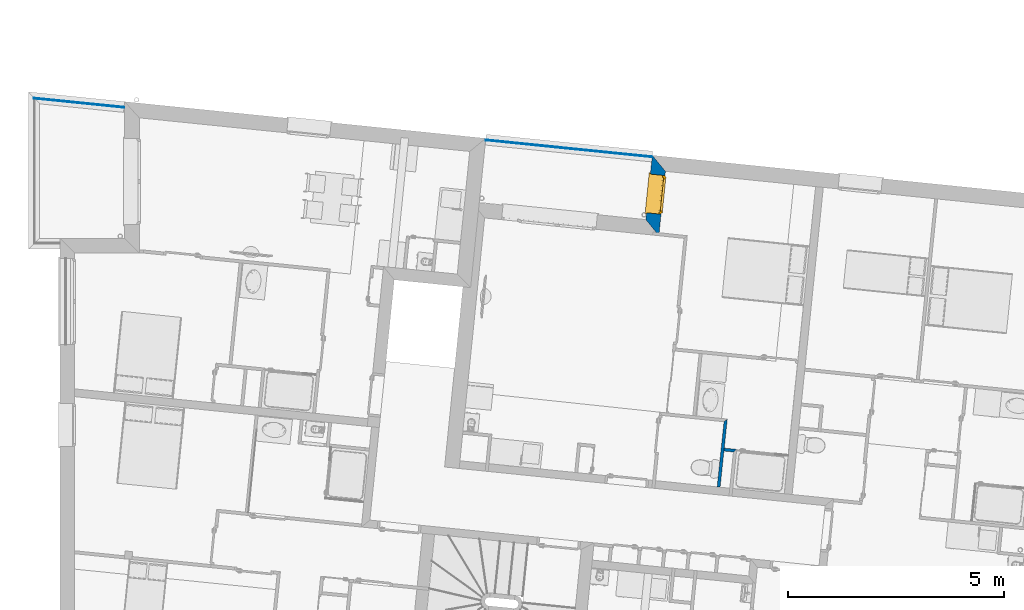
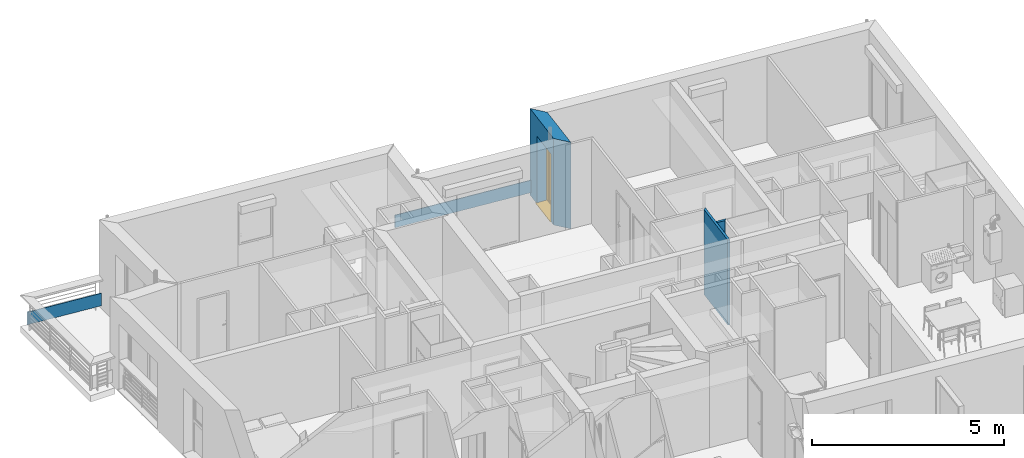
# One storey, part 67 of 164: 5 walls, 1 window, 1 opening.
"""IFC2X3 building model written with IfcOpenShell, lengths in millimetres."""

from ifc_helpers import new_model, entity, si_unit, converted_unit, derived_unit, money_unit, direction, frame, origin_with_axes, place, context, subcontext, project, spatial, polyline, outline, extrude, open_shell, faceted_brep, surface_model, source, transform, mapped, material, layer, layer_set, layer_usage, type_object, element, fill, save


model = new_model("IFC2X3")

# Units and contexts
model_context = context("Model", 3, precision=0.01, world=origin_with_axes(), true_north=direction((0.0, 1.0)))
body_context = subcontext(model_context, "Body", "Model", "MODEL_VIEW")
ifc_project = project(units=[si_unit("LENGTHUNIT", "METRE", prefix="MILLI"), si_unit("AREAUNIT", "SQUARE_METRE"), si_unit("VOLUMEUNIT", "CUBIC_METRE"), converted_unit("PLANEANGLEUNIT", "DEGREE", entity("IfcPlaneAngleMeasure", 0.0174532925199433), si_unit("PLANEANGLEUNIT", "RADIAN"), dimensions=[0, 0, 0, 0, 0, 0, 0]), money_unit("USD"), converted_unit("TIMEUNIT", "Year", entity("IfcTimeMeasure", 31557600.0), si_unit("TIMEUNIT", "SECOND"), dimensions=[0, 0, 1, 0, 0, 0, 0]), si_unit("MASSUNIT", "GRAM", prefix="KILO"), si_unit("THERMODYNAMICTEMPERATUREUNIT", "DEGREE_CELSIUS"), si_unit("LUMINOUSINTENSITYUNIT", "LUMEN"), si_unit("ENERGYUNIT", "JOULE", prefix="MEGA"), derived_unit("THERMALCONDUCTANCEUNIT", [(si_unit("POWERUNIT", "WATT"), 1), (si_unit("LENGTHUNIT", "METRE"), -1), (si_unit("THERMODYNAMICTEMPERATUREUNIT", "KELVIN"), -1)]), derived_unit("SPECIFICHEATCAPACITYUNIT", [(si_unit("ENERGYUNIT", "JOULE"), 1), (si_unit("MASSUNIT", "GRAM", prefix="KILO"), -1), (si_unit("THERMODYNAMICTEMPERATUREUNIT", "KELVIN"), -1)]), derived_unit("MASSDENSITYUNIT", [(si_unit("MASSUNIT", "GRAM", prefix="KILO"), 1), (si_unit("VOLUMEUNIT", "CUBIC_METRE"), -1)])], contexts=[model_context])

# Site, building, storey
site_placement = place(None, origin_with_axes())
site = spatial("IfcSite", under=ifc_project, at=site_placement, Name="Site", CompositionType="ELEMENT")
building_placement = place(site_placement, origin_with_axes())
building = spatial("IfcBuilding", under=site, at=building_placement, Name="Bâtiment", CompositionType="ELEMENT")
storey_placement = place(building_placement, frame((0.0, 0.0, 5750.0), z_axis=(0.0, 0.0, 1.0), x_axis=(1.0, 0.0, 0.0)))
storey = spatial("IfcBuildingStorey", under=building, at=storey_placement, Name="Etage1", CompositionType="ELEMENT", Elevation=5750.0)

# Walls
ifc_material_1 = material(Name="MANQUANT")
ifc_layer_1 = layer(ifc_material_1, 20.0, ventilated="UNKNOWN")
ifc_layer_set_1 = layer_set([ifc_layer_1], Name="MANQUANT 20")
ifc_layer_usage_1 = layer_usage(ifc_layer_set_1, "AXIS2", "NEGATIVE", 20.0)
wall_type_1 = type_object("IfcWallType", Name="MANQUANT 20", PredefinedType="NOTDEFINED")
wall_1_placement = place(storey_placement, frame((2218131.208259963, -604120.8081355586, 99.99999999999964), z_axis=(0.0, 0.0, 1.0), x_axis=(-0.9949030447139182, 0.1008361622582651, 0.0)))
element("IfcWallStandardCase", 1, at=wall_1_placement, inside=storey, type_object=wall_type_1, material=ifc_layer_usage_1, Name="Mur-164", context=body_context, shape_type="SweptSolid", body=[
    extrude(outline(polyline([(0.0, 0.0), (2110.418738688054, 0.0), (2110.418738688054, 20.00000000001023), (0.0, 20.00000000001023), (0.0, 0.0)])), origin_with_axes(), (0.0, 0.0, 1.0), 400.0),
])
ifc_layer_usage_2 = layer_usage(ifc_layer_set_1, "AXIS2", "NEGATIVE", 20.0)
wall_2_placement = place(storey_placement, frame((2230372.546297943, -605269.1152525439, 99.99999999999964), z_axis=(0.0, 0.0, 1.0), x_axis=(-0.994903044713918, 0.1008361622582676, 0.0)))
element("IfcWallStandardCase", 2, at=wall_2_placement, inside=storey, type_object=wall_type_1, material=ifc_layer_usage_2, Name="Mur-190", context=body_context, shape_type="SweptSolid", body=[
    extrude(outline(polyline([(0.008052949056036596, 0.0), (3880.501257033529, 0.0), (3880.501257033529, 20.00000000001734), (0.01342158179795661, 20.00000000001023), (0.008052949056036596, 0.0)])), origin_with_axes(), (0.0, 0.0, 1.0), 400.0),
])

# Wall, opening, window
ifc_material_2 = material(Name="Parpaing 312445824")
ifc_layer_2 = layer(ifc_material_2, 180.0, ventilated="UNKNOWN")
ifc_material_3 = material(Name="Isolant styromousse 301821074")
ifc_layer_3 = layer(ifc_material_3, 160.0, ventilated="UNKNOWN")
ifc_layer_set_2 = layer_set([ifc_layer_2, ifc_layer_3], Name="isol int 18+16 0018356637")
ifc_layer_usage_3 = layer_usage(ifc_layer_set_2, "AXIS2", "POSITIVE", 0.0)
wall_type_2 = type_object("IfcWallType", Name="isol int 18+16 0018356637 340", PredefinedType="NOTDEFINED")
wall_3_placement = place(storey_placement, frame((2230375.549323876, -605239.4852255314, 0.0), z_axis=(0.0, 0.0, 1.0), x_axis=(-0.1011032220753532, -0.9948759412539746, 0.0)))
wall_3 = element("IfcWallStandardCase", 3, at=wall_3_placement, inside=storey, type_object=wall_type_2, material=ifc_layer_usage_3, Name="Mur-142", context=body_context, shape_type="SweptSolid", body=[
    extrude(outline(polyline([(0.0, 0.0), (1499.999999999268, 1.13686837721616e-10), (1839.999999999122, 340.0000000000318), (339.9999999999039, 339.9999999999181), (0.0, 0.0)])), origin_with_axes(), (0.0, 0.0, 1.0), 2750.0),
])
opening_placement = place(wall_3_placement, frame((889.7579921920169, 0.0, 0.0), z_axis=(0.0, 0.0, 1.0), x_axis=(1.0, 0.0, 0.0)))
opening = element("IfcOpeningElement", 4, at=opening_placement, cuts=wall_3, Name="Fen-207", context=body_context, shape_type="Brep", body=[
    faceted_brep([(-450.0000000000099, 289.9999999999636, 2150.0), (-450.0000000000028, 491.8777448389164, 2150.0), (-449.9999999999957, 491.8777448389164, 0.0), (-450.0000000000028, 289.9999999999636, 0.0), (-450.0000000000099, 280.0000000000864, 2150.0), (-450.0000000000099, 280.0000000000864, 2400.0), (-449.9999999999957, 529.9999999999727, 2400.0), (-449.9999999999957, 529.9999999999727, 2150.0), (450.0000000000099, 491.8777448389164, 2150.0), (450.0000000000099, 491.8777448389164, 0.0), (450.0000000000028, 289.9999999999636, 0.0), (450.0000000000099, -151.8777448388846, 0.0), (-449.9999999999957, -151.8777448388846, 0.0), (-449.9999999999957, -151.8777448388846, 2150.0), (449.9999999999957, 280.0000000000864, 2150.0), (449.9999999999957, 280.0000000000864, 2400.0), (450.0000000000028, 529.9999999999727, 2400.0), (450.0000000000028, 529.9999999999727, 2150.0), (450.0000000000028, 289.9999999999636, 2150.0), (450.0000000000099, -151.8777448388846, 2150.0)], [[[0, 1, 2, 3]], [[1, 0, 4, 5, 6, 7]], [[1, 8, 9, 2]], [[10, 11, 12, 3, 2, 9]], [[4, 0, 3, 12, 13]], [[4, 14, 15, 5]], [[6, 5, 15, 16]], [[7, 6, 16, 17]], [[8, 1, 7, 17]], [[8, 18, 10, 9]], [[18, 14, 19, 11, 10]], [[13, 12, 11, 19]], [[14, 4, 13, 19]], [[18, 8, 17, 16, 15, 14]]]),
])
window_style = type_object("IfcWindowStyle", Name="Fenêtre 27", ConstructionType="NOTDEFINED", OperationType="SINGLE_PANEL", ParameterTakesPrecedence=False, Sizeable=False)
shared_shape = source(origin_with_axes(), body_context, "Body", "SurfaceModel", [
    surface_model("IfcShellBasedSurfaceModel", [(-450.0, -51.00000000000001, 40.00000000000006), (450.0, -51.00000000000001, 40.0), (450.0, -51.00000000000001, 50.0), (-450.0, -51.00000000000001, 50.00000000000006), (-480.0, -369.9999999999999, 28.96551724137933), (480.0, -369.9999999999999, 28.96551724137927), (480.0, -339.9999999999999, 30.00324289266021), (450.0, -339.9999999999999, 30.00324289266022), (-450.0, -339.9999999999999, 30.00324289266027), (-480.0, -339.9999999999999, 30.00324289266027), (-480.0, -369.9999999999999, 8.965517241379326), (480.0, -369.9999999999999, 8.965517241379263), (-480.0, -359.9999999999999, 18.96551724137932), (480.0, -359.9999999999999, 18.96551724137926)], [open_shell([[[0, 1, 2, 3]], [[4, 5, 6, 7, 1, 0, 8, 9]], [[10, 11, 5, 4]], [[12, 13, 11, 10]]])]),
    faceted_brep([(450.0, -59.99999999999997, 2400.0), (450.0, 190.0, 2400.0), (447.0, 190.0, 2400.0), (447.0, -59.99999999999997, 2400.0), (450.0, -59.99999999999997, 2150.0), (450.0, 190.0, 2150.0), (447.0, 190.0, 2150.0), (447.0, -59.99999999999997, 2150.0)], [[[0, 1, 2, 3]], [[0, 4, 5, 1]], [[1, 5, 6, 2]], [[3, 2, 6, 7]], [[4, 0, 3, 7]], [[5, 4, 7, 6]]]),
    faceted_brep([(-447.0, -59.99999999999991, 2400.0), (-447.0, 190.0000000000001, 2400.0), (-450.0, 190.0000000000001, 2400.0), (-450.0, -59.99999999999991, 2400.0), (-447.0, -59.99999999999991, 2150.0), (-447.0, 190.0000000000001, 2150.0), (-450.0, 190.0000000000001, 2150.0), (-450.0, -59.99999999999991, 2150.0)], [[[0, 1, 2, 3]], [[0, 4, 5, 1]], [[1, 5, 6, 2]], [[3, 2, 6, 7]], [[4, 0, 3, 7]], [[5, 4, 7, 6]]]),
    faceted_brep([(447.0, -59.99999999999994, 2150.0), (447.0, -59.99999999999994, 2400.0), (-447.0, -59.99999999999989, 2400.0), (-447.0, -59.99999999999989, 2150.0), (447.0, -56.99999999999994, 2150.0), (447.0, -56.99999999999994, 2397.0), (447.0, 187.0000000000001, 2397.0), (447.0, 187.0000000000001, 2153.0), (447.0, -37.99999999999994, 2153.0), (447.0, -37.99999999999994, 2150.0), (447.0, 190.0000000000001, 2150.0), (447.0, 190.0000000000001, 2400.0), (-447.0, 190.0000000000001, 2400.0), (-447.0, 190.0000000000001, 2150.0), (-447.0, -37.99999999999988, 2150.0), (-447.0, -37.99999999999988, 2153.0), (-447.0, 187.0000000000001, 2153.0), (-447.0, 187.0000000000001, 2397.0), (-447.0, -56.99999999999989, 2397.0), (-447.0, -56.99999999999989, 2150.0)], [[[0, 1, 2, 3]], [[0, 4, 5, 6, 7, 8, 9, 10, 11, 1]], [[1, 11, 12, 2]], [[3, 2, 12, 13, 14, 15, 16, 17, 18, 19]], [[4, 0, 3, 19]], [[5, 4, 19, 18]], [[6, 5, 18, 17]], [[7, 6, 17, 16]], [[8, 7, 16, 15]], [[9, 8, 15, 14]], [[10, 9, 14, 13]], [[11, 10, 13, 12]]]),
    faceted_brep([(444.0, -40.374429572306, 2256.419644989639), (444.0, -35.54711042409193, 2238.403844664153), (444.0, -27.6647182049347, 2221.5), (444.0, -16.96675541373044, 2206.22172576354), (444.0, -3.778274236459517, 2193.033244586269), (444.0, 11.50000000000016, 2182.335281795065), (444.0, 28.40384466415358, 2174.452889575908), (444.0, 46.41964498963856, 2169.625570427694), (444.0, 65.00000000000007, 2168.0), (444.0, 83.5803550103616, 2169.625570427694), (444.0, 101.5961553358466, 2174.452889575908), (444.0, 118.5, 2182.335281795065), (444.0, 133.7782742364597, 2193.033244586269), (444.0, 146.9667554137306, 2206.22172576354), (444.0, 157.6647182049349, 2221.5), (444.0, 165.5471104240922, 2238.403844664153), (444.0, 170.3744295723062, 2256.419644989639), (444.0, 172.0, 2275.0), (444.0, 170.3744295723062, 2293.580355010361), (444.0, 165.5471104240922, 2311.596155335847), (444.0, 157.6647182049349, 2328.5), (444.0, 146.9667554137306, 2343.77827423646), (444.0, 133.7782742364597, 2356.96675541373), (444.0, 118.5, 2367.664718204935), (444.0, 101.5961553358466, 2375.547110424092), (444.0, 83.58035501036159, 2380.374429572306), (444.0, 65.00000000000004, 2382.0), (444.0, 46.4196449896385, 2380.374429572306), (444.0, 28.4038446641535, 2375.547110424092), (444.0, 11.50000000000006, 2367.664718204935), (444.0, -3.778274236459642, 2356.96675541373), (444.0, -16.96675541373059, 2343.77827423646), (444.0, -27.66471820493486, 2328.5), (444.0, -35.54711042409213, 2311.596155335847), (444.0, -40.37442957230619, 2293.580355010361), (444.0, -41.99999999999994, 2275.0), (-444.0, -40.37442957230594, 2256.419644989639), (-444.0, -35.54711042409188, 2238.403844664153), (-444.0, -27.66471820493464, 2221.5), (-444.0, -16.96675541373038, 2206.22172576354), (-444.0, -3.778274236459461, 2193.033244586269), (-444.0, 11.50000000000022, 2182.335281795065), (-444.0, 28.40384466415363, 2174.452889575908), (-444.0, 46.41964498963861, 2169.625570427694), (-444.0, 65.00000000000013, 2168.0), (-444.0, 83.58035501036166, 2169.625570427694), (-444.0, 101.5961553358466, 2174.452889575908), (-444.0, 118.5000000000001, 2182.335281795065), (-444.0, 133.7782742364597, 2193.033244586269), (-444.0, 146.9667554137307, 2206.22172576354), (-444.0, 157.6647182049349, 2221.5), (-444.0, 165.5471104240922, 2238.403844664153), (-444.0, 170.3744295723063, 2256.419644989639), (-444.0, 172.0, 2275.0), (-444.0, 170.3744295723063, 2293.580355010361), (-444.0, 165.5471104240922, 2311.596155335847), (-444.0, 157.664718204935, 2328.5), (-444.0, 146.9667554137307, 2343.77827423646), (-444.0, 133.7782742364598, 2356.96675541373), (-444.0, 118.5000000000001, 2367.664718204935), (-444.0, 101.5961553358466, 2375.547110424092), (-444.0, 83.58035501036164, 2380.374429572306), (-444.0, 65.0000000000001, 2382.0), (-444.0, 46.41964498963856, 2380.374429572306), (-444.0, 28.40384466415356, 2375.547110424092), (-444.0, 11.50000000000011, 2367.664718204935), (-444.0, -3.778274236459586, 2356.96675541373), (-444.0, -16.96675541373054, 2343.77827423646), (-444.0, -27.66471820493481, 2328.5), (-444.0, -35.54711042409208, 2311.596155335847), (-444.0, -40.37442957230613, 2293.580355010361), (-444.0, -41.99999999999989, 2275.0)], [[[0, 1, 2, 3, 4, 5, 6, 7, 8, 9, 10, 11, 12, 13, 14, 15, 16, 17, 18, 19, 20, 21, 22, 23, 24, 25, 26, 27, 28, 29, 30, 31, 32, 33, 34, 35]], [[1, 0, 36, 37]], [[2, 1, 37, 38]], [[3, 2, 38, 39]], [[4, 3, 39, 40]], [[5, 4, 40, 41]], [[6, 5, 41, 42]], [[7, 6, 42, 43]], [[8, 7, 43, 44]], [[9, 8, 44, 45]], [[10, 9, 45, 46]], [[11, 10, 46, 47]], [[12, 11, 47, 48]], [[13, 12, 48, 49]], [[14, 13, 49, 50]], [[15, 14, 50, 51]], [[16, 15, 51, 52]], [[17, 16, 52, 53]], [[18, 17, 53, 54]], [[19, 18, 54, 55]], [[20, 19, 55, 56]], [[21, 20, 56, 57]], [[22, 21, 57, 58]], [[23, 22, 58, 59]], [[24, 23, 59, 60]], [[25, 24, 60, 61]], [[26, 25, 61, 62]], [[27, 26, 62, 63]], [[28, 27, 63, 64]], [[29, 28, 64, 65]], [[30, 29, 65, 66]], [[31, 30, 66, 67]], [[32, 31, 67, 68]], [[33, 32, 68, 69]], [[34, 33, 69, 70]], [[35, 34, 70, 71]], [[0, 35, 71, 36]], [[36, 71, 70, 69, 68, 67, 66, 65, 64, 63, 62, 61, 60, 59, 58, 57, 56, 55, 54, 53, 52, 51, 50, 49, 48, 47, 46, 45, 44, 43, 42, 41, 40, 39, 38, 37]]]),
    faceted_brep([(-450.0, -34.99999999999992, 30.0), (-450.0, -59.99999999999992, 30.0), (-450.0, -59.99999999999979, 2150.0), (-450.0, -34.99999999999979, 2150.0), (-425.0, -34.99999999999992, 30.0), (-425.0, -37.99999999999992, 30.0), (-447.0, -37.99999999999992, 30.0), (-447.0, -56.99999999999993, 30.0), (-425.0, -56.99999999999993, 30.0), (-425.0, -59.99999999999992, 30.0), (-425.0, -59.99999999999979, 2150.0), (-425.0, -56.99999999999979, 2150.0), (-447.0, -56.99999999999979, 2150.0), (-447.0, -37.99999999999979, 2150.0), (-425.0, -37.99999999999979, 2150.0), (-425.0, -34.99999999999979, 2150.0)], [[[0, 1, 2, 3]], [[0, 4, 5, 6, 7, 8, 9, 1]], [[1, 9, 10, 2]], [[3, 2, 10, 11, 12, 13, 14, 15]], [[4, 0, 3, 15]], [[5, 4, 15, 14]], [[6, 5, 14, 13]], [[7, 6, 13, 12]], [[8, 7, 12, 11]], [[9, 8, 11, 10]]]),
    faceted_brep([(450.0, -34.99999999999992, 30.0), (450.0, -34.99999999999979, 2150.0), (450.0, -59.99999999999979, 2150.0), (450.0, -59.99999999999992, 30.0), (425.0, -34.99999999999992, 30.0), (425.0, -34.99999999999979, 2150.0), (425.0, -37.99999999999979, 2150.0), (447.0, -37.99999999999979, 2150.0), (447.0, -56.99999999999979, 2150.0), (425.0, -56.99999999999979, 2150.0), (425.0, -59.99999999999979, 2150.0), (425.0, -59.99999999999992, 30.0), (425.0, -56.99999999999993, 30.0), (447.0, -56.99999999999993, 30.0), (447.0, -37.99999999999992, 30.0), (425.0, -37.99999999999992, 30.0)], [[[0, 1, 2, 3]], [[4, 5, 1, 0]], [[1, 5, 6, 7, 8, 9, 10, 2]], [[3, 2, 10, 11]], [[0, 3, 11, 12, 13, 14, 15, 4]], [[15, 6, 5, 4]], [[14, 7, 6, 15]], [[13, 8, 7, 14]], [[12, 9, 8, 13]], [[11, 10, 9, 12]]]),
    faceted_brep([(-447.0, -46.66666666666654, 2275.0), (447.0, -46.6666666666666, 2275.0), (447.0, -46.6666666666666, 2266.666666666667), (-447.0, -46.66666666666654, 2266.666666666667), (-447.0, -51.66666666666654, 2275.0), (447.0, -51.6666666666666, 2275.0), (447.0, -51.6666666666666, 2266.666666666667), (447.0, -49.99999999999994, 2250.0), (447.0, -44.99999999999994, 2250.0), (-447.0, -44.99999999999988, 2250.0), (-447.0, -49.99999999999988, 2250.0), (-447.0, -51.66666666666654, 2266.666666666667)], [[[0, 1, 2, 3]], [[1, 0, 4, 5]], [[1, 5, 6, 7, 8, 2]], [[2, 8, 9, 3]], [[4, 0, 3, 9, 10, 11]], [[6, 5, 4, 11]], [[7, 6, 11, 10]], [[8, 7, 10, 9]]]),
    faceted_brep([(447.0, -44.99999999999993, 2250.0), (447.0, -46.6666666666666, 2233.333333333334), (-447.0, -46.66666666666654, 2233.333333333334), (-447.0, -44.99999999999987, 2250.0), (447.0, -49.99999999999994, 2250.0), (447.0, -51.6666666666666, 2233.333333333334), (447.0, -51.6666666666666, 2216.666666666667), (447.0, -49.99999999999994, 2200.0), (447.0, -44.99999999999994, 2200.0), (447.0, -46.6666666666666, 2216.666666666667), (-447.0, -46.66666666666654, 2216.666666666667), (-447.0, -44.99999999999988, 2200.0), (-447.0, -49.99999999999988, 2200.0), (-447.0, -51.66666666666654, 2216.666666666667), (-447.0, -51.66666666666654, 2233.333333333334), (-447.0, -49.99999999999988, 2250.0)], [[[0, 1, 2, 3]], [[0, 4, 5, 6, 7, 8, 9, 1]], [[1, 9, 10, 2]], [[3, 2, 10, 11, 12, 13, 14, 15]], [[4, 0, 3, 15]], [[5, 4, 15, 14]], [[6, 5, 14, 13]], [[7, 6, 13, 12]], [[8, 7, 12, 11]], [[9, 8, 11, 10]]]),
    faceted_brep([(447.0, -44.99999999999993, 2200.0), (447.0, -46.6666666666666, 2183.333333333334), (-447.0, -46.66666666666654, 2183.333333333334), (-447.0, -44.99999999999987, 2200.0), (447.0, -49.99999999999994, 2200.0), (447.0, -51.6666666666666, 2183.333333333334), (447.0, -51.6666666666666, 2166.666666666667), (447.0, -49.99999999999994, 2150.000000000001), (447.0, -44.99999999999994, 2150.000000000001), (447.0, -46.6666666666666, 2166.666666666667), (-447.0, -46.66666666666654, 2166.666666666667), (-447.0, -44.99999999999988, 2150.000000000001), (-447.0, -49.99999999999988, 2150.000000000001), (-447.0, -51.66666666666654, 2166.666666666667), (-447.0, -51.66666666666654, 2183.333333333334), (-447.0, -49.99999999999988, 2200.0)], [[[0, 1, 2, 3]], [[0, 4, 5, 6, 7, 8, 9, 1]], [[1, 9, 10, 2]], [[3, 2, 10, 11, 12, 13, 14, 15]], [[4, 0, 3, 15]], [[5, 4, 15, 14]], [[6, 5, 14, 13]], [[7, 6, 13, 12]], [[8, 7, 12, 11]], [[9, 8, 11, 10]]]),
    faceted_brep([(425.0000000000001, 0.0, 2100.0), (425.0000000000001, -25.00000000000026, 2100.0), (400.0, -25.00000000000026, 2100.0), (400.0, -50.00000000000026, 2100.0), (450.0, -50.00000000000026, 2100.0), (450.0, 0.0, 2100.0), (425.0000000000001, 0.0, 50.00000000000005), (425.0000000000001, -25.00000000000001, 50.00000000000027), (400.0, -25.00000000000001, 50.00000000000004), (400.0, -50.00000000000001, 50.00000000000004), (450.0, -50.00000000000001, 50.00000000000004), (450.0, 0.0, 50.00000000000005)], [[[0, 1, 2, 3, 4, 5]], [[1, 0, 6, 7]], [[8, 2, 1, 7]], [[2, 8, 9, 3]], [[4, 3, 9, 10]], [[5, 4, 10, 11]], [[6, 0, 5, 11]], [[7, 6, 11, 10, 9, 8]]]),
    faceted_brep([(-400.0, -25.00000000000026, 2100.0), (-425.0000000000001, -25.00000000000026, 2100.0), (-425.0000000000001, 0.0, 2100.0), (-450.0, 0.0, 2100.0), (-450.0, -50.00000000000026, 2100.0), (-400.0, -50.00000000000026, 2100.0), (-400.0, -25.00000000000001, 50.00000000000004), (-425.0000000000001, -25.00000000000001, 50.00000000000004), (-425.0000000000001, 0.0, 50.00000000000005), (-450.0, 0.0, 50.00000000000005), (-450.0, -50.00000000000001, 50.00000000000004), (-400.0, -50.00000000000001, 50.00000000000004)], [[[0, 1, 2, 3, 4, 5]], [[1, 0, 6, 7]], [[8, 2, 1, 7]], [[2, 8, 9, 3]], [[9, 10, 4, 3]], [[10, 11, 5, 4]], [[6, 0, 5, 11]], [[7, 6, 11, 10, 9, 8]]]),
    faceted_brep([(-400.0, -25.00000000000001, 50.00000000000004), (-425.0000000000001, -25.00000000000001, 50.00000000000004), (-425.0000000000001, 0.0, 50.00000000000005), (-450.0, 0.0, 50.00000000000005), (-450.0, -50.00000000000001, 50.00000000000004), (-400.0, -50.00000000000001, 50.00000000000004), (400.0, -25.00000000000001, 50.00000000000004), (425.0000000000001, -25.00000000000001, 50.00000000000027), (425.0000000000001, -25.0, 24.99999999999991), (-425.0000000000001, -25.0, 24.99999999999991), (-425.0000000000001, 0.0, 24.99999999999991), (425.0000000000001, 0.0, 24.99999999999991), (425.0000000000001, 0.0, 50.00000000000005), (450.0, 0.0, 50.00000000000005), (450.0, 0.0, 0.0), (-450.0, 0.0, 0.0), (-450.0, -50.0, 0.0), (450.0, -50.00000000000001, 50.00000000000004), (400.0, -50.00000000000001, 50.00000000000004), (450.0, -50.0, 0.0)], [[[0, 1, 2, 3, 4, 5]], [[1, 0, 6, 7, 8, 9]], [[10, 2, 1, 9]], [[11, 12, 13, 14, 15, 3, 2, 10]], [[15, 16, 4, 3]], [[17, 18, 5, 4, 16, 19]], [[6, 0, 5, 18]], [[7, 6, 18, 17, 13, 12]], [[7, 12, 11, 8]], [[11, 10, 9, 8]], [[13, 17, 19, 14]], [[14, 19, 16, 15]]]),
    faceted_brep([(425.0000000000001, 0.0, 2100.0), (425.0000000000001, 0.0, 2125.0), (-425.0000000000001, 0.0, 2125.0), (-425.0000000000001, 0.0, 2100.0), (-450.0, 0.0, 2100.0), (-450.0, 0.0, 2150.0), (450.0, 0.0, 2150.0), (450.0, 0.0, 2100.0), (425.0000000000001, -25.00000000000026, 2100.0), (425.0000000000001, -25.00000000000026, 2125.0), (-425.0000000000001, -25.00000000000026, 2125.0), (-425.0000000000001, -25.00000000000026, 2100.0), (-400.0, -25.00000000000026, 2100.0), (-400.0, -50.00000000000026, 2100.0), (-450.0, -50.00000000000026, 2100.0), (-450.0, -50.00000000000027, 2150.0), (450.0, -50.00000000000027, 2150.0), (450.0, -50.00000000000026, 2100.0), (400.0, -50.00000000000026, 2100.0), (400.0, -25.00000000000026, 2100.0)], [[[0, 1, 2, 3, 4, 5, 6, 7]], [[1, 0, 8, 9]], [[2, 1, 9, 10]], [[3, 2, 10, 11]], [[11, 12, 13, 14, 4, 3]], [[4, 14, 15, 5]], [[5, 15, 16, 6]], [[6, 16, 17, 7]], [[8, 0, 7, 17, 18, 19]], [[12, 11, 10, 9, 8, 19]], [[12, 19, 18, 13]], [[14, 13, 18, 17, 16, 15]]]),
    faceted_brep([(375.0000000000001, -25.00000000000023, 2075.0), (425.0000000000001, -25.00000000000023, 2075.0), (425.0000000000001, 24.99999999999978, 2075.0), (375.0000000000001, 24.99999999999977, 2075.0), (375.0000000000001, -24.99999999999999, 75.00000000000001), (425.0000000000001, -24.99999999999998, 75.00000000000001), (425.0000000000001, 25.00000000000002, 75.00000000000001), (375.0000000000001, 25.00000000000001, 75.00000000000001)], [[[0, 1, 2, 3]], [[0, 4, 5, 1]], [[1, 5, 6, 2]], [[3, 2, 6, 7]], [[4, 0, 3, 7]], [[5, 4, 7, 6]]]),
    faceted_brep([(-375.0000000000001, -25.00000000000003, 75.00000000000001), (-425.0000000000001, -25.00000000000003, 75.00000000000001), (-425.0000000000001, 24.99999999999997, 75.00000000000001), (-375.0000000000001, 24.99999999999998, 75.00000000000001), (-375.0000000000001, -25.00000000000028, 2075.0), (-425.0000000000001, -25.00000000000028, 2075.0), (-425.0000000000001, 24.99999999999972, 2075.0), (-375.0000000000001, 24.99999999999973, 2075.0)], [[[0, 1, 2, 3]], [[0, 4, 5, 1]], [[1, 5, 6, 2]], [[3, 2, 6, 7]], [[4, 0, 3, 7]], [[5, 4, 7, 6]]]),
    faceted_brep([(-425.0000000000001, -25.00000000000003, 25.0), (-425.0000000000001, -25.00000000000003, 75.00000000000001), (-425.0000000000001, 24.99999999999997, 75.00000000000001), (-425.0000000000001, 24.99999999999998, 25.00000000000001), (425.0000000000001, -24.99999999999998, 25.0), (425.0000000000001, -24.99999999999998, 75.00000000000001), (375.0000000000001, -24.99999999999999, 75.00000000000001), (-375.0000000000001, -25.00000000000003, 75.00000000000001), (-375.0000000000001, 24.99999999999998, 75.00000000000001), (375.0000000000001, 25.00000000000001, 75.00000000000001), (425.0000000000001, 25.00000000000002, 75.00000000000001), (425.0000000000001, 25.00000000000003, 25.00000000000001)], [[[0, 1, 2, 3]], [[0, 4, 5, 6, 7, 1]], [[1, 7, 8, 2]], [[3, 2, 8, 9, 10, 11]], [[4, 0, 3, 11]], [[5, 4, 11, 10]], [[6, 5, 10, 9]], [[7, 6, 9, 8]]]),
    faceted_brep([(425.0000000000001, -25.00000000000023, 2125.0), (425.0000000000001, -25.00000000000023, 2075.0), (425.0000000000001, 24.99999999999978, 2075.0), (425.0000000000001, 24.99999999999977, 2125.0), (-425.0000000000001, -25.00000000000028, 2125.0), (-425.0000000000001, -25.00000000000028, 2075.0), (-375.0000000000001, -25.00000000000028, 2075.0), (375.0000000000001, -25.00000000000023, 2075.0), (375.0000000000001, 24.99999999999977, 2075.0), (-375.0000000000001, 24.99999999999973, 2075.0), (-425.0000000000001, 24.99999999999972, 2075.0), (-425.0000000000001, 24.99999999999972, 2125.0)], [[[0, 1, 2, 3]], [[0, 4, 5, 6, 7, 1]], [[1, 7, 8, 2]], [[3, 2, 8, 9, 10, 11]], [[4, 0, 3, 11]], [[5, 4, 11, 10]], [[6, 5, 10, 9]], [[7, 6, 9, 8]]]),
    surface_model("IfcShellBasedSurfaceModel", [(375.0000000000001, -10.00000000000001, 75.00000000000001), (375.0000000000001, -10.00000000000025, 2075.0), (-375.0000000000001, -10.00000000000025, 2075.0), (-375.0000000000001, -10.00000000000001, 75.00000000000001)], [open_shell([[[0, 1, 2, 3]]])]),
    surface_model("IfcShellBasedSurfaceModel", [(375.0000000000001, 9.999999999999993, 75.00000000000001), (-375.0000000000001, 9.999999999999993, 75.00000000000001), (-375.0000000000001, 9.99999999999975, 2075.0), (375.0000000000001, 9.99999999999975, 2075.0)], [open_shell([[[0, 1, 2, 3]]])]),
])
window_placement = place(opening_placement, frame((-449.9999999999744, 1.13686837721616e-10, 0.0), z_axis=(0.0, 0.0, 1.0), x_axis=(1.0, 0.0, 0.0)))
window = element("IfcWindow", 5, at=window_placement, inside=storey, type_object=window_style, Name="Fen-207", OverallHeight=2150.0, OverallWidth=900.0, context=body_context, shape_type="MappedRepresentation", body=[
    mapped(shared_shape, transform((449.9999999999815, 339.9999999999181, 0.0))),
])
fill(opening, window)

# Walls
ifc_material_4 = material(Name="Vide 288701167")
ifc_layer_4 = layer(ifc_material_4, 70.0, ventilated="UNKNOWN")
ifc_layer_set_3 = layer_set([ifc_layer_4], Name="Cloison 7 0826278243")
ifc_layer_usage_4 = layer_usage(ifc_layer_set_3, "AXIS2", "NEGATIVE", 0.0)
wall_type_3 = type_object("IfcWallType", Name="Cloison 7 0826278243 70", PredefinedType="NOTDEFINED")
wall_4_placement = place(storey_placement, frame((2232107.991516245, -611428.1400346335, 0.0), z_axis=(0.0, 0.0, 1.0), x_axis=(-0.1045284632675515, -0.9945218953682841, 0.0)))
element("IfcWallStandardCase", 6, at=wall_4_placement, inside=storey, type_object=wall_type_3, material=ifc_layer_usage_4, Name="Mur-148", context=body_context, shape_type="SweptSolid", body=[
    extrude(outline(polyline([(0.2352722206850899, -69.99999999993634), (1519.959387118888, -70.00000000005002), (1519.959387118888, 0.0), (-70.0003953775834, 1.13686837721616e-10), (0.2352722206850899, -69.99999999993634)])), origin_with_axes(), (0.0, 0.0, 1.0), 2700.0),
])
ifc_layer_usage_5 = layer_usage(ifc_layer_set_3, "AXIS2", "NEGATIVE", 0.0)
wall_5_placement = place(storey_placement, frame((2232044.472143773, -612032.486494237, 0.0), z_axis=(0.0, 0.0, 1.0), x_axis=(0.9948673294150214, -0.1011879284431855, 0.0)))
element("IfcWallStandardCase", 7, at=wall_5_placement, inside=storey, type_object=wall_type_3, material=ifc_layer_usage_5, Name="Mur-148", context=body_context, shape_type="SweptSolid", body=[
    extrude(outline(polyline([(-0.2350853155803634, -70.00000000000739), (220.9881450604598, -70.00000000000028), (290.9881396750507, 0.0), (0.0, 0.0), (-0.2350853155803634, -70.00000000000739)])), origin_with_axes(), (0.0, 0.0, 1.0), 2700.0),
])

save(model, "model.ifc")
